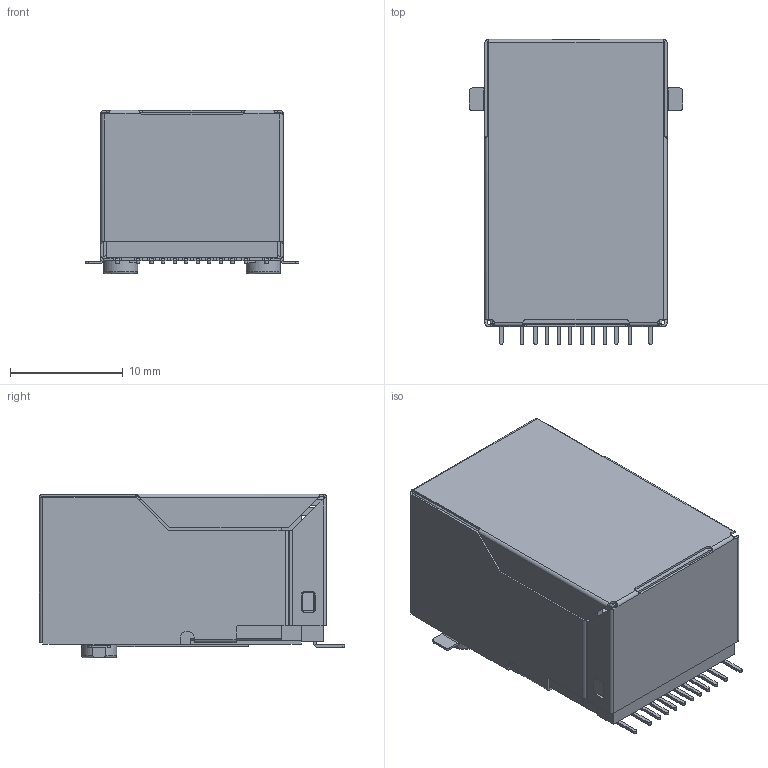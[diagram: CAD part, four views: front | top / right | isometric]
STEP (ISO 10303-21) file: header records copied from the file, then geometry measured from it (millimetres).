
FILE_DESCRIPTION((''),'2;1');
FILE_NAME('MSBR-3','2023-03-25T09:50:33',('Administrator'),(''),'CREO PARAMETRIC BY PTC INC, 2019010','CREO PARAMETRIC BY PTC INC, 2019010','');
FILE_SCHEMA(('CONFIG_CONTROL_DESIGN'));
Length unit declared in the file: millimetre
Products named in the file (1): MSBR-3
Bounding box: 18.94 x 27 x 14.5 mm (x, y, z)
Volume: 3051.1 mm3; surface area: 8683.4 mm2
Topology: 1 solids, 1 shells, 1750 faces, 5325 edges, 3486 vertices
Faces by surface type: plane 1440, cylinder 290, bspline 16, torus 4
Entity records: 60007 total; most frequent: CARTESIAN_POINT 11483, ORIENTED_EDGE 10650, DIRECTION 9403, EDGE_CURVE 5325, VECTOR 4595, LINE 4595, VERTEX_POINT 3486, AXIS2_PLACEMENT_3D 2404
